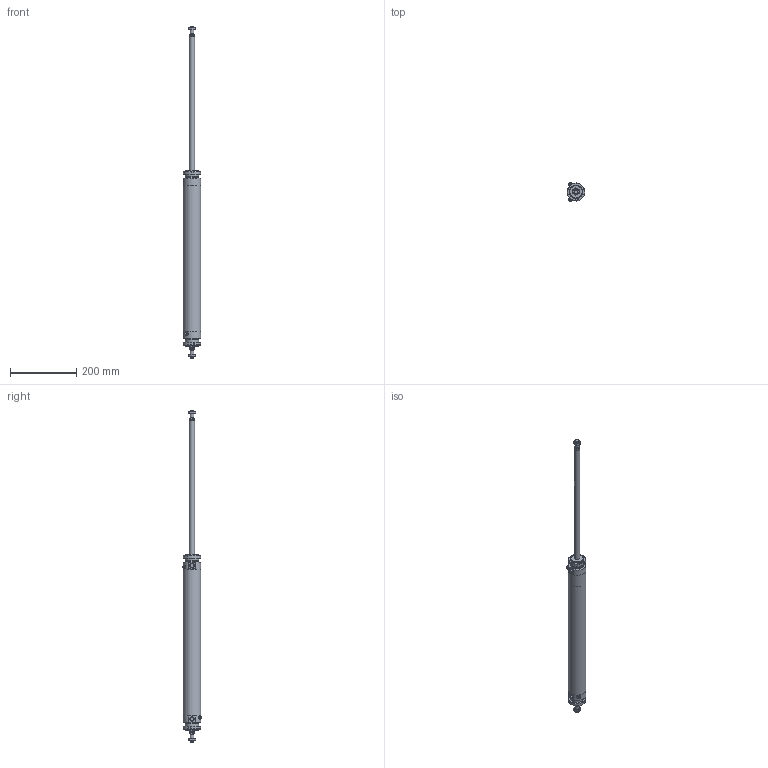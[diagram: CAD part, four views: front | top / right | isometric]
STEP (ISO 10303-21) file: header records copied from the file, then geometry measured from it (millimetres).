
FILE_DESCRIPTION(/* description */ (''),/* implementation_level */ '2;1');
FILE_NAME(/* name */ 'I:\Area Tecnica\Documenti\A-Manieri\_Inventor\12X\12X#S_###_####_#_#\12XDS_050_0400_#_#.stp',/* time_stamp */ '2015-05-13T08:20:54+02:00',/* author */ ('maniean1'),/* organization */ ('Pneumax S.p.A.'),/* preprocessor_version */ 'ST-DEVELOPER v15.2',/* originating_system */ 'Autodesk Inventor 2014',/* authorisation */ '');
FILE_SCHEMA (('AUTOMOTIVE_DESIGN { 1 0 10303 214 3 1 1 }'));
Length unit declared in the file: millimetre
Products named in the file (6): C1250_619-0400; 12X50_606; SP12X50_0400; 12X_50_11; G12X_050_05; 12XDS_050_0400_#_#
Bounding box: 54 x 57.75 x 1002 mm (x, y, z)
Volume: 570591.8 mm3; surface area: 240262.2 mm2
Topology: 8 solids, 8 shells, 151 faces, 345 edges, 222 vertices
Faces by surface type: plane 78, cylinder 37, cone 34, torus 2
Full cylindrical faces by diameter (mm): 5 x2, 10.2 x2, 11 x2, 11.4 x2, 12 x4, 14 x2, 15.6 x2, 16 x2, 38.2 x2, 40 x6, 50 x2, 54 x3
Entity records: 2556 total; most frequent: CARTESIAN_POINT 505, DIRECTION 428, ORIENTED_EDGE 342, AXIS2_PLACEMENT_3D 182, EDGE_CURVE 171, EDGE_LOOP 144, VERTEX_POINT 129, ADVANCED_FACE 94
